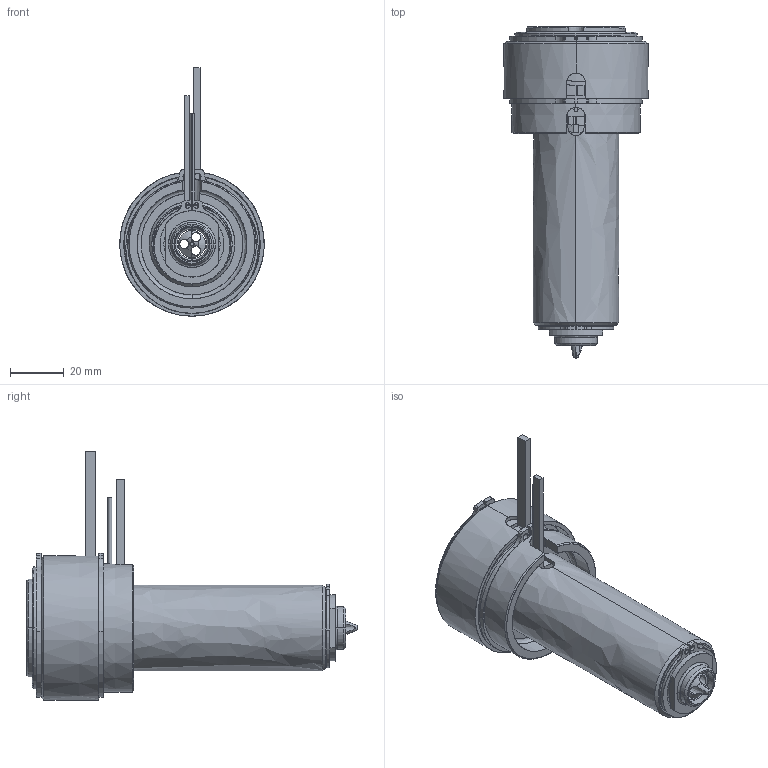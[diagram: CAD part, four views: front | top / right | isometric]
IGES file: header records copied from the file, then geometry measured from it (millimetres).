
Start section: SolidWorks IGES file using analytic representation for surfaces
Global section: file name: C:\Documents and Settings\ws-20\Desktop\TEM\UGEP5502-M-A-0 [Øf-1.55 ØC-12].IGS; native system: SolidWorks 2012; preprocessor: SolidWorks 2012; author: ws-20; date: 120427.075926; units: millimetre
Bounding box: 54 x 124.05 x 92.8 mm (x, y, z)
Surface area: 57506.6 mm2 (no closed solid volume)
Topology: 0 solids, 0 shells, 186 faces, 3686 edges, 3686 vertices
Faces by surface type: revolution 118, bspline 68
